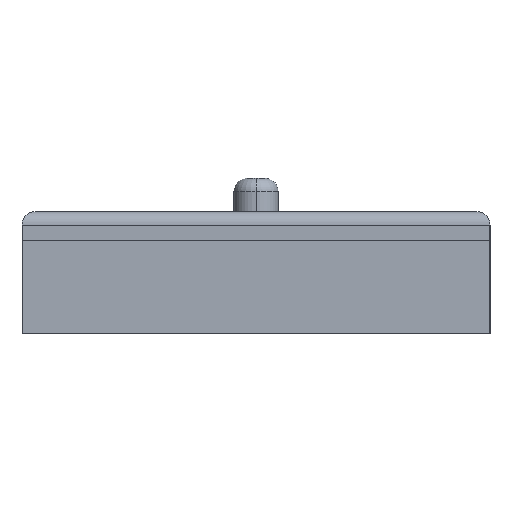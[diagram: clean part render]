
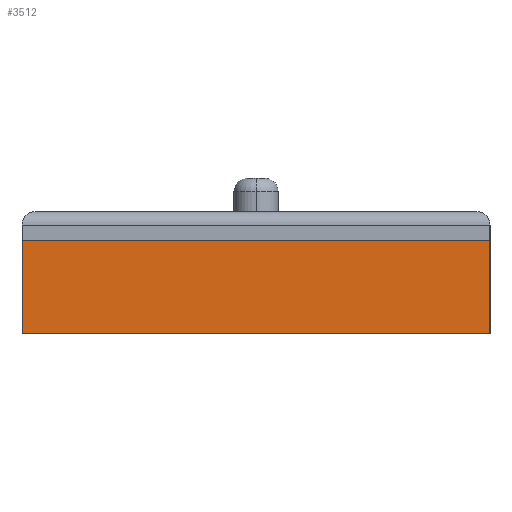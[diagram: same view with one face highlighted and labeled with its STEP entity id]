
A CAD part, left-side view. The second image highlights one B-rep face of the part: STEP entity #3512.
In plain terms, the highlighted planar face has unit normal (-1, 0, 0).
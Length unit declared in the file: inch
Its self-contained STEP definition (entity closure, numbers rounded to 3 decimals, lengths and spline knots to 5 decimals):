
#241 = FACE_OUTER_BOUND ( 'NONE', #2453, .T. ) ;
#880 = CARTESIAN_POINT ( 'NONE',  ( 0.906, 0., -0.32 ) ) ;
#904 = DIRECTION ( 'NONE',  ( 0., -1., 0. ) ) ;
#908 = CARTESIAN_POINT ( 'NONE',  ( 0.906, 0., -1.37 ) ) ;
#966 = CARTESIAN_POINT ( 'NONE',  ( 0.906, 5.25, -0.32 ) ) ;
#967 = DIRECTION ( 'NONE',  ( 0., -1., 0. ) ) ;
#1136 = DIRECTION ( 'NONE',  ( 0., 0., -1. ) ) ;
#1246 = CARTESIAN_POINT ( 'NONE',  ( 0.906, 5.25, -0.32 ) ) ;
#1293 = CARTESIAN_POINT ( 'NONE',  ( 0.906, 0., -0.32 ) ) ;
#1417 = CARTESIAN_POINT ( 'NONE',  ( 0.906, 5.25, -1.37 ) ) ;
#1554 = DIRECTION ( 'NONE',  ( 0., 0., -1. ) ) ;
#2035 = CARTESIAN_POINT ( 'NONE',  ( 0.906, 5.25, -1.37 ) ) ;
#2191 = CARTESIAN_POINT ( 'NONE',  ( 0.906, 5.25, -0.32 ) ) ;
#2453 = EDGE_LOOP ( 'NONE', ( #6856, #6855, #6854, #6853 ) ) ;
#3512 = ADVANCED_FACE ( 'NONE', ( #241 ), #4793, .F. ) ;
#4788 = CARTESIAN_POINT ( 'NONE',  ( 0.906, 5.25, -0.32 ) ) ;
#4793 = PLANE ( 'NONE',  #8449 ) ;
#4798 = DIRECTION ( 'NONE',  ( 1., 0., 0. ) ) ;
#4799 = DIRECTION ( 'NONE',  ( 0., 1., 0. ) ) ;
#5404 = EDGE_CURVE ( 'NONE', #6607, #6400, #5711, .T. ) ;
#5420 = EDGE_CURVE ( 'NONE', #6788, #6314, #5747, .T. ) ;
#5439 = EDGE_CURVE ( 'NONE', #6788, #6607, #5785, .T. ) ;
#5471 = EDGE_CURVE ( 'NONE', #6314, #6400, #5849, .T. ) ;
#5711 = LINE ( 'NONE', #1417, #5716 ) ;
#5716 = VECTOR ( 'NONE', #904, 39.37008 ) ;
#5747 = LINE ( 'NONE', #966, #5748 ) ;
#5748 = VECTOR ( 'NONE', #967, 39.37008 ) ;
#5785 = LINE ( 'NONE', #1246, #5786 ) ;
#5786 = VECTOR ( 'NONE', #1554, 39.37008 ) ;
#5849 = LINE ( 'NONE', #880, #5850 ) ;
#5850 = VECTOR ( 'NONE', #1136, 39.37008 ) ;
#6314 = VERTEX_POINT ( 'NONE', #1293 ) ;
#6400 = VERTEX_POINT ( 'NONE', #908 ) ;
#6607 = VERTEX_POINT ( 'NONE', #2035 ) ;
#6788 = VERTEX_POINT ( 'NONE', #2191 ) ;
#6853 = ORIENTED_EDGE ( 'NONE', *, *, #5439, .T. ) ;
#6854 = ORIENTED_EDGE ( 'NONE', *, *, #5420, .F. ) ;
#6855 = ORIENTED_EDGE ( 'NONE', *, *, #5471, .F. ) ;
#6856 = ORIENTED_EDGE ( 'NONE', *, *, #5404, .T. ) ;
#8449 = AXIS2_PLACEMENT_3D ( 'NONE', #4788, #4798, #4799 ) ;
